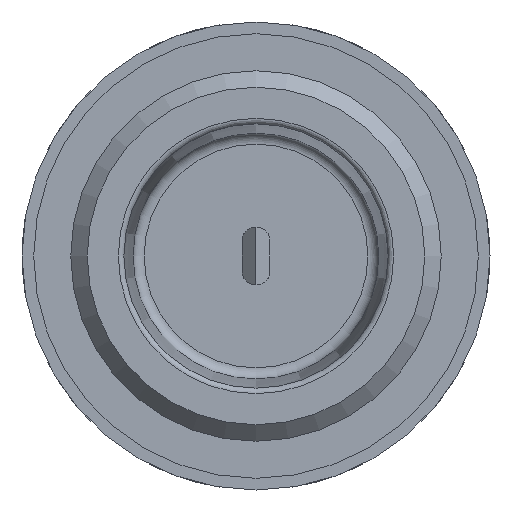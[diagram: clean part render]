
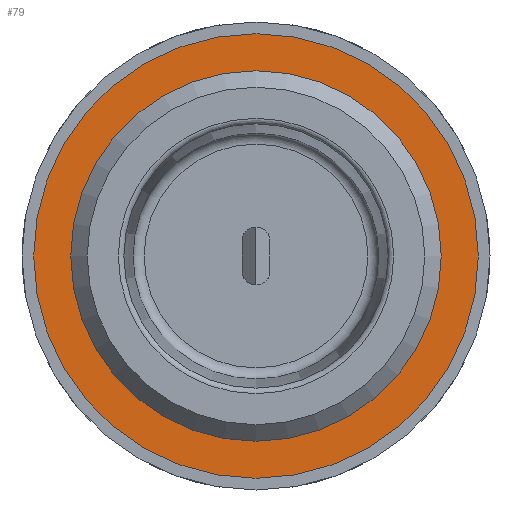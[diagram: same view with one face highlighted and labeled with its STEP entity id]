
A CAD part, left-side view. The second image highlights one B-rep face of the part: STEP entity #79.
In plain terms, the highlighted planar face has unit normal (-1, 0, 0).
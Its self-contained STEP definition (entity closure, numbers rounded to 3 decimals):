
#79 = ADVANCED_FACE( '', ( #148, #149 ), #150, .T. );
#148 = FACE_BOUND( '', #287, .T. );
#149 = FACE_OUTER_BOUND( '', #288, .T. );
#150 = PLANE( '', #289 );
#287 = EDGE_LOOP( '', ( #440 ) );
#288 = EDGE_LOOP( '', ( #441 ) );
#289 = AXIS2_PLACEMENT_3D( '', #442, #443, #444 );
#440 = ORIENTED_EDGE( '', *, *, #909, .T. );
#441 = ORIENTED_EDGE( '', *, *, #910, .F. );
#442 = CARTESIAN_POINT( '', ( 11.7, 19.95, 0. ) );
#443 = DIRECTION( '', ( -1., 0., 0. ) );
#444 = DIRECTION( '', ( 0., 0., 1. ) );
#909 = EDGE_CURVE( '', #1066, #1066, #1067, .T. );
#910 = EDGE_CURVE( '', #1068, #1068, #1069, .T. );
#1066 = VERTEX_POINT( '', #1326 );
#1067 = CIRCLE( '', #1327, 16.625 );
#1068 = VERTEX_POINT( '', #1328 );
#1069 = CIRCLE( '', #1329, 19.95 );
#1326 = CARTESIAN_POINT( '', ( 11.7, 0., -16.625 ) );
#1327 = AXIS2_PLACEMENT_3D( '', #1700, #1701, #1702 );
#1328 = CARTESIAN_POINT( '', ( 11.7, 0., -19.95 ) );
#1329 = AXIS2_PLACEMENT_3D( '', #1703, #1704, #1705 );
#1700 = CARTESIAN_POINT( '', ( 11.7, 0., 0. ) );
#1701 = DIRECTION( '', ( 1., 0., 0. ) );
#1702 = DIRECTION( '', ( 0., 0., -1. ) );
#1703 = CARTESIAN_POINT( '', ( 11.7, 0., 0. ) );
#1704 = DIRECTION( '', ( 1., 0., 0. ) );
#1705 = DIRECTION( '', ( 0., 0., -1. ) );
